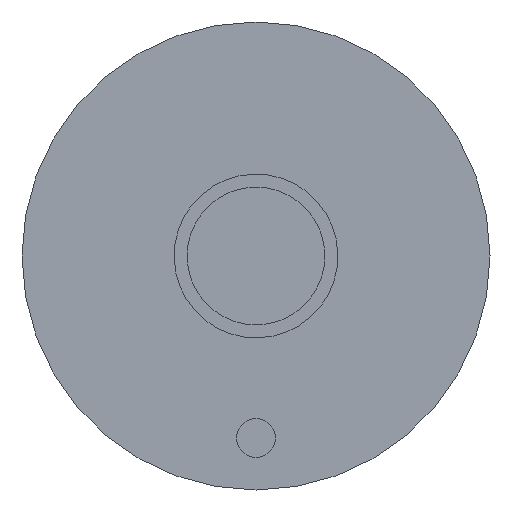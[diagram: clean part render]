
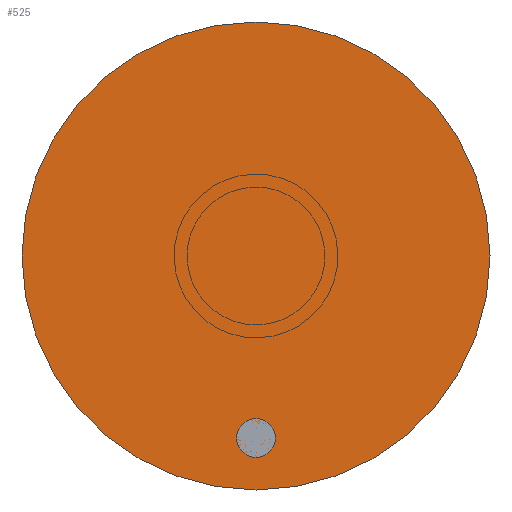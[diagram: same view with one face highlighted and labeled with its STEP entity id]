
A CAD part, front view. The second image highlights one B-rep face of the part: STEP entity #525.
In plain terms, the highlighted planar face has unit normal (0, -1, 0).
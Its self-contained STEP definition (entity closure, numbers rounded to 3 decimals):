
#58 = EDGE_CURVE ( 'NONE', #897, #892, #805, .T. ) ;
#179 = DIRECTION ( 'NONE',  ( 0., 0., 1. ) ) ;
#227 = AXIS2_PLACEMENT_3D ( 'NONE', #1027, #2323, #1942 ) ;
#358 = CARTESIAN_POINT ( 'NONE',  ( 0., -3., -90. ) ) ;
#387 = DIRECTION ( 'NONE',  ( 0., 0., 1. ) ) ;
#414 = ORIENTED_EDGE ( 'NONE', *, *, #1664, .F. ) ;
#492 = FACE_OUTER_BOUND ( 'NONE', #2375, .T. ) ;
#525 = ADVANCED_FACE ( 'NONE', ( #492 ), #1040, .F. ) ;
#581 = CARTESIAN_POINT ( 'NONE',  ( 0., -3., 0. ) ) ;
#664 = DIRECTION ( 'NONE',  ( 0., 1., 0. ) ) ;
#805 = CIRCLE ( 'NONE', #1539, 90. ) ;
#892 = VERTEX_POINT ( 'NONE', #1838 ) ;
#897 = VERTEX_POINT ( 'NONE', #358 ) ;
#997 = AXIS2_PLACEMENT_3D ( 'NONE', #2345, #664, #179 ) ;
#1027 = CARTESIAN_POINT ( 'NONE',  ( 0., -3., 0. ) ) ;
#1040 = PLANE ( 'NONE',  #227 ) ;
#1336 = DIRECTION ( 'NONE',  ( 0., 1., 0. ) ) ;
#1539 = AXIS2_PLACEMENT_3D ( 'NONE', #581, #1336, #387 ) ;
#1664 = EDGE_CURVE ( 'NONE', #892, #897, #1944, .T. ) ;
#1838 = CARTESIAN_POINT ( 'NONE',  ( 0., -3., 90. ) ) ;
#1942 = DIRECTION ( 'NONE',  ( 0., 0., 1. ) ) ;
#1944 = CIRCLE ( 'NONE', #997, 90. ) ;
#2194 = ORIENTED_EDGE ( 'NONE', *, *, #58, .F. ) ;
#2323 = DIRECTION ( 'NONE',  ( 0., 1., 0. ) ) ;
#2345 = CARTESIAN_POINT ( 'NONE',  ( 0., -3., 0. ) ) ;
#2375 = EDGE_LOOP ( 'NONE', ( #414, #2194 ) ) ;
